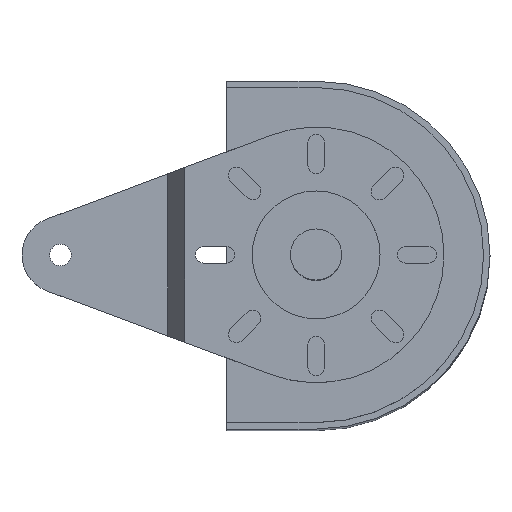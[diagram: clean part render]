
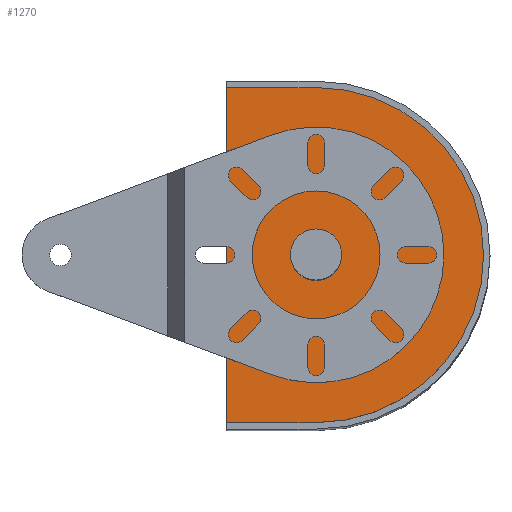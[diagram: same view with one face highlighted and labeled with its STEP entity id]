
A CAD part, top view. The second image highlights one B-rep face of the part: STEP entity #1270.
In plain terms, the highlighted planar face has unit normal (0, 0, 1).
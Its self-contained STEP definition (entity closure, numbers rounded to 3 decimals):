
#1 = DIRECTION ( 'NONE',  ( 0., 0., 1. ) ) ;
#27 = AXIS2_PLACEMENT_3D ( 'NONE', #1251, #1, #1266 ) ;
#31 = PLANE ( 'NONE',  #1142 ) ;
#150 = VERTEX_POINT ( 'NONE', #670 ) ;
#239 = DIRECTION ( 'NONE',  ( 1., 0., 0. ) ) ;
#313 = EDGE_CURVE ( 'NONE', #2135, #150, #1681, .T. ) ;
#348 = CIRCLE ( 'NONE', #1693, 10. ) ;
#394 = VERTEX_POINT ( 'NONE', #2223 ) ;
#421 = VERTEX_POINT ( 'NONE', #1699 ) ;
#466 = VECTOR ( 'NONE', #1794, 1000. ) ;
#526 = DIRECTION ( 'NONE',  ( 0., 0., 1. ) ) ;
#567 = ORIENTED_EDGE ( 'NONE', *, *, #313, .T. ) ;
#602 = EDGE_LOOP ( 'NONE', ( #2170, #1751 ) ) ;
#670 = CARTESIAN_POINT ( 'NONE',  ( -68., 65.5, 211.5 ) ) ;
#674 = CARTESIAN_POINT ( 'NONE',  ( -78., 0., 211.5 ) ) ;
#712 = ORIENTED_EDGE ( 'NONE', *, *, #1530, .T. ) ;
#743 = CARTESIAN_POINT ( 'NONE',  ( -68., 0., 211.5 ) ) ;
#871 = VERTEX_POINT ( 'NONE', #2180 ) ;
#914 = LINE ( 'NONE', #1068, #942 ) ;
#917 = CARTESIAN_POINT ( 'NONE',  ( -68., 0., 211.5 ) ) ;
#920 = DIRECTION ( 'NONE',  ( 0., 0., 1. ) ) ;
#924 = DIRECTION ( 'NONE',  ( 0., 0., 1. ) ) ;
#942 = VECTOR ( 'NONE', #1636, 1000. ) ;
#1068 = CARTESIAN_POINT ( 'NONE',  ( -103., 65.5, 211.5 ) ) ;
#1116 = CIRCLE ( 'NONE', #2228, 10. ) ;
#1142 = AXIS2_PLACEMENT_3D ( 'NONE', #917, #526, #1815 ) ;
#1190 = CARTESIAN_POINT ( 'NONE',  ( -103., -65.5, 211.5 ) ) ;
#1234 = EDGE_CURVE ( 'NONE', #150, #394, #1968, .T. ) ;
#1251 = CARTESIAN_POINT ( 'NONE',  ( -68., 0., 211.5 ) ) ;
#1266 = DIRECTION ( 'NONE',  ( 1., 0., 0. ) ) ;
#1270 = ADVANCED_FACE ( 'NONE', ( #2000, #2366 ), #31, .T. ) ;
#1361 = EDGE_CURVE ( 'NONE', #421, #1686, #348, .T. ) ;
#1424 = CARTESIAN_POINT ( 'NONE',  ( -68., 65.5, 211.5 ) ) ;
#1530 = EDGE_CURVE ( 'NONE', #871, #2135, #1940, .T. ) ;
#1636 = DIRECTION ( 'NONE',  ( 0., -1., 0. ) ) ;
#1659 = CARTESIAN_POINT ( 'NONE',  ( -68., -65.5, 211.5 ) ) ;
#1681 = CIRCLE ( 'NONE', #27, 65.5 ) ;
#1686 = VERTEX_POINT ( 'NONE', #674 ) ;
#1692 = ORIENTED_EDGE ( 'NONE', *, *, #1234, .T. ) ;
#1693 = AXIS2_PLACEMENT_3D ( 'NONE', #2037, #924, #239 ) ;
#1699 = CARTESIAN_POINT ( 'NONE',  ( -58., 0., 211.5 ) ) ;
#1709 = VECTOR ( 'NONE', #2106, 1000. ) ;
#1737 = EDGE_CURVE ( 'NONE', #394, #871, #914, .T. ) ;
#1751 = ORIENTED_EDGE ( 'NONE', *, *, #1361, .F. ) ;
#1794 = DIRECTION ( 'NONE',  ( -1., 0., 0. ) ) ;
#1815 = DIRECTION ( 'NONE',  ( 1., 0., 0. ) ) ;
#1940 = LINE ( 'NONE', #1190, #1709 ) ;
#1962 = ORIENTED_EDGE ( 'NONE', *, *, #1737, .T. ) ;
#1968 = LINE ( 'NONE', #1424, #466 ) ;
#2000 = FACE_OUTER_BOUND ( 'NONE', #2164, .T. ) ;
#2037 = CARTESIAN_POINT ( 'NONE',  ( -68., 0., 211.5 ) ) ;
#2095 = EDGE_CURVE ( 'NONE', #1686, #421, #1116, .T. ) ;
#2106 = DIRECTION ( 'NONE',  ( 1., 0., 0. ) ) ;
#2135 = VERTEX_POINT ( 'NONE', #1659 ) ;
#2164 = EDGE_LOOP ( 'NONE', ( #1692, #1962, #712, #567 ) ) ;
#2170 = ORIENTED_EDGE ( 'NONE', *, *, #2095, .F. ) ;
#2180 = CARTESIAN_POINT ( 'NONE',  ( -103., -65.5, 211.5 ) ) ;
#2223 = CARTESIAN_POINT ( 'NONE',  ( -103., 65.5, 211.5 ) ) ;
#2225 = DIRECTION ( 'NONE',  ( 1., 0., 0. ) ) ;
#2228 = AXIS2_PLACEMENT_3D ( 'NONE', #743, #920, #2225 ) ;
#2366 = FACE_BOUND ( 'NONE', #602, .T. ) ;
